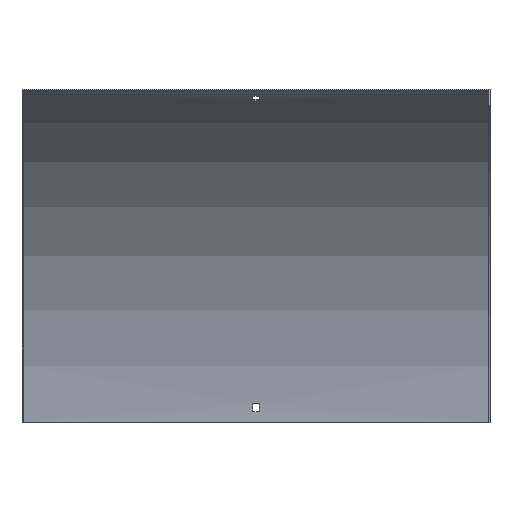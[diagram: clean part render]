
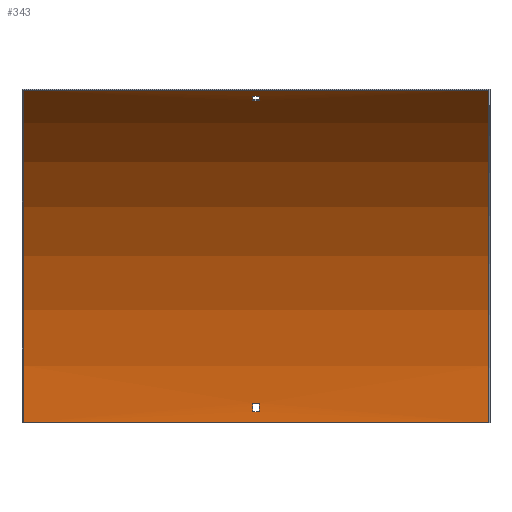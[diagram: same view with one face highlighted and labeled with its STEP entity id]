
A CAD part, front view. The second image highlights one B-rep face of the part: STEP entity #343.
In plain terms, the highlighted cylindrical face has radius 412.5 mm (diameter 825 mm), a partial arc.
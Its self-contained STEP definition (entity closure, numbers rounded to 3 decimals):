
#2 = DIRECTION ( 'NONE',  ( 0., 0., 1. ) ) ;
#11 = FACE_OUTER_BOUND ( 'NONE', #412, .T. ) ;
#14 = DIRECTION ( 'NONE',  ( 1., 0., 0. ) ) ;
#22 = VECTOR ( 'NONE', #285, 1000. ) ;
#39 = CARTESIAN_POINT ( 'NONE',  ( 250., -1.5, 0. ) ) ;
#41 = DIRECTION ( 'NONE',  ( -1., 0., 0. ) ) ;
#45 = VECTOR ( 'NONE', #154, 1000. ) ;
#49 = EDGE_CURVE ( 'NONE', #385, #560, #394, .T. ) ;
#64 = VERTEX_POINT ( 'NONE', #263 ) ;
#68 = DIRECTION ( 'NONE',  ( -1., 0., 0. ) ) ;
#73 = DIRECTION ( 'NONE',  ( -1., 0., 0. ) ) ;
#77 = LINE ( 'NONE', #579, #270 ) ;
#79 = CARTESIAN_POINT ( 'NONE',  ( 251.5, -2.035, 21. ) ) ;
#80 = EDGE_CURVE ( 'NONE', #284, #88, #218, .T. ) ;
#88 = VERTEX_POINT ( 'NONE', #580 ) ;
#100 = CARTESIAN_POINT ( 'NONE',  ( 250., -414., 0. ) ) ;
#104 = CARTESIAN_POINT ( 'NONE',  ( 251.5, -197.445, 351.084 ) ) ;
#114 = CARTESIAN_POINT ( 'NONE',  ( 3.25, -2.035, 21. ) ) ;
#116 = VERTEX_POINT ( 'NONE', #180 ) ;
#128 = CIRCLE ( 'NONE', #535, 412.5 ) ;
#134 = DIRECTION ( 'NONE',  ( 0., 0., 1. ) ) ;
#136 = ORIENTED_EDGE ( 'NONE', *, *, #290, .T. ) ;
#154 = DIRECTION ( 'NONE',  ( -1., 0., 0. ) ) ;
#155 = ORIENTED_EDGE ( 'NONE', *, *, #80, .F. ) ;
#159 = AXIS2_PLACEMENT_3D ( 'NONE', #555, #41, #279 ) ;
#163 = EDGE_CURVE ( 'NONE', #259, #587, #177, .T. ) ;
#165 = CARTESIAN_POINT ( 'NONE',  ( -3.25, -189.831, 346.272 ) ) ;
#177 = CIRCLE ( 'NONE', #190, 412.5 ) ;
#180 = CARTESIAN_POINT ( 'NONE',  ( -250., -1.5, 0. ) ) ;
#184 = EDGE_CURVE ( 'NONE', #560, #284, #308, .T. ) ;
#186 = CIRCLE ( 'NONE', #305, 412.5 ) ;
#190 = AXIS2_PLACEMENT_3D ( 'NONE', #275, #228, #134 ) ;
#196 = CARTESIAN_POINT ( 'NONE',  ( 3.25, -197.445, 351.084 ) ) ;
#197 = VERTEX_POINT ( 'NONE', #418 ) ;
#199 = CARTESIAN_POINT ( 'NONE',  ( 250., -207.75, 357.235 ) ) ;
#201 = CYLINDRICAL_SURFACE ( 'NONE', #601, 412.5 ) ;
#204 = FACE_BOUND ( 'NONE', #416, .T. ) ;
#207 = DIRECTION ( 'NONE',  ( 0., 0., -1. ) ) ;
#208 = DIRECTION ( 'NONE',  ( 1., 0., 0. ) ) ;
#211 = CARTESIAN_POINT ( 'NONE',  ( 251.5, -1.675, 12. ) ) ;
#217 = DIRECTION ( 'NONE',  ( 0., 1., 0. ) ) ;
#218 = LINE ( 'NONE', #211, #604 ) ;
#223 = ORIENTED_EDGE ( 'NONE', *, *, #586, .T. ) ;
#228 = DIRECTION ( 'NONE',  ( -1., 0., 0. ) ) ;
#232 = CIRCLE ( 'NONE', #554, 412.5 ) ;
#238 = DIRECTION ( 'NONE',  ( -1., 0., 0. ) ) ;
#244 = LINE ( 'NONE', #422, #45 ) ;
#246 = DIRECTION ( 'NONE',  ( 0., 0., -1. ) ) ;
#247 = EDGE_CURVE ( 'NONE', #88, #385, #232, .T. ) ;
#257 = EDGE_CURVE ( 'NONE', #565, #348, #186, .T. ) ;
#259 = VERTEX_POINT ( 'NONE', #196 ) ;
#263 = CARTESIAN_POINT ( 'NONE',  ( -250., -207.75, 357.235 ) ) ;
#269 = ORIENTED_EDGE ( 'NONE', *, *, #297, .T. ) ;
#270 = VECTOR ( 'NONE', #73, 1000. ) ;
#275 = CARTESIAN_POINT ( 'NONE',  ( 3.25, -414., 0. ) ) ;
#279 = DIRECTION ( 'NONE',  ( 0., 0., 1. ) ) ;
#283 = LINE ( 'NONE', #104, #22 ) ;
#284 = VERTEX_POINT ( 'NONE', #482 ) ;
#285 = DIRECTION ( 'NONE',  ( 1., 0., 0. ) ) ;
#290 = EDGE_CURVE ( 'NONE', #348, #64, #244, .T. ) ;
#297 = EDGE_CURVE ( 'NONE', #197, #259, #283, .T. ) ;
#304 = ORIENTED_EDGE ( 'NONE', *, *, #184, .F. ) ;
#305 = AXIS2_PLACEMENT_3D ( 'NONE', #100, #377, #246 ) ;
#308 = CIRCLE ( 'NONE', #159, 412.5 ) ;
#315 = ORIENTED_EDGE ( 'NONE', *, *, #519, .F. ) ;
#317 = AXIS2_PLACEMENT_3D ( 'NONE', #497, #208, #217 ) ;
#343 = ADVANCED_FACE ( 'NONE', ( #517, #11, #204 ), #201, .F. ) ;
#348 = VERTEX_POINT ( 'NONE', #199 ) ;
#360 = DIRECTION ( 'NONE',  ( -1., 0., 0. ) ) ;
#370 = VECTOR ( 'NONE', #68, 1000. ) ;
#374 = DIRECTION ( 'NONE',  ( 1., 0., 0. ) ) ;
#377 = DIRECTION ( 'NONE',  ( 1., 0., 0. ) ) ;
#378 = CIRCLE ( 'NONE', #317, 412.5 ) ;
#385 = VERTEX_POINT ( 'NONE', #114 ) ;
#394 = LINE ( 'NONE', #79, #370 ) ;
#395 = DIRECTION ( 'NONE',  ( 1., 0., 0. ) ) ;
#406 = EDGE_CURVE ( 'NONE', #116, #64, #128, .T. ) ;
#412 = EDGE_LOOP ( 'NONE', ( #451, #315, #439, #136 ) ) ;
#416 = EDGE_LOOP ( 'NONE', ( #504, #223, #269, #583 ) ) ;
#418 = CARTESIAN_POINT ( 'NONE',  ( -3.25, -197.445, 351.084 ) ) ;
#422 = CARTESIAN_POINT ( 'NONE',  ( 250., -207.75, 357.235 ) ) ;
#427 = CARTESIAN_POINT ( 'NONE',  ( 251.5, -414., 0. ) ) ;
#437 = CARTESIAN_POINT ( 'NONE',  ( 250., -1.5, 0. ) ) ;
#439 = ORIENTED_EDGE ( 'NONE', *, *, #257, .T. ) ;
#451 = ORIENTED_EDGE ( 'NONE', *, *, #406, .F. ) ;
#457 = VECTOR ( 'NONE', #360, 1000. ) ;
#463 = LINE ( 'NONE', #39, #457 ) ;
#472 = DIRECTION ( 'NONE',  ( 0., 0., -1. ) ) ;
#476 = ORIENTED_EDGE ( 'NONE', *, *, #49, .F. ) ;
#482 = CARTESIAN_POINT ( 'NONE',  ( -3.25, -1.675, 12. ) ) ;
#497 = CARTESIAN_POINT ( 'NONE',  ( -3.25, -414., 0. ) ) ;
#504 = ORIENTED_EDGE ( 'NONE', *, *, #540, .T. ) ;
#517 = FACE_BOUND ( 'NONE', #574, .T. ) ;
#519 = EDGE_CURVE ( 'NONE', #565, #116, #463, .T. ) ;
#535 = AXIS2_PLACEMENT_3D ( 'NONE', #576, #14, #207 ) ;
#537 = CARTESIAN_POINT ( 'NONE',  ( -3.25, -2.035, 21. ) ) ;
#538 = ORIENTED_EDGE ( 'NONE', *, *, #247, .F. ) ;
#540 = EDGE_CURVE ( 'NONE', #587, #605, #77, .T. ) ;
#554 = AXIS2_PLACEMENT_3D ( 'NONE', #607, #374, #472 ) ;
#555 = CARTESIAN_POINT ( 'NONE',  ( -3.25, -414., 0. ) ) ;
#560 = VERTEX_POINT ( 'NONE', #537 ) ;
#565 = VERTEX_POINT ( 'NONE', #437 ) ;
#574 = EDGE_LOOP ( 'NONE', ( #304, #476, #538, #155 ) ) ;
#576 = CARTESIAN_POINT ( 'NONE',  ( -250., -414., 0. ) ) ;
#579 = CARTESIAN_POINT ( 'NONE',  ( 251.5, -189.831, 346.272 ) ) ;
#580 = CARTESIAN_POINT ( 'NONE',  ( 3.25, -1.675, 12. ) ) ;
#583 = ORIENTED_EDGE ( 'NONE', *, *, #163, .T. ) ;
#584 = CARTESIAN_POINT ( 'NONE',  ( 3.25, -189.831, 346.272 ) ) ;
#586 = EDGE_CURVE ( 'NONE', #605, #197, #378, .T. ) ;
#587 = VERTEX_POINT ( 'NONE', #584 ) ;
#601 = AXIS2_PLACEMENT_3D ( 'NONE', #427, #238, #2 ) ;
#604 = VECTOR ( 'NONE', #395, 1000. ) ;
#605 = VERTEX_POINT ( 'NONE', #165 ) ;
#607 = CARTESIAN_POINT ( 'NONE',  ( 3.25, -414., 0. ) ) ;
